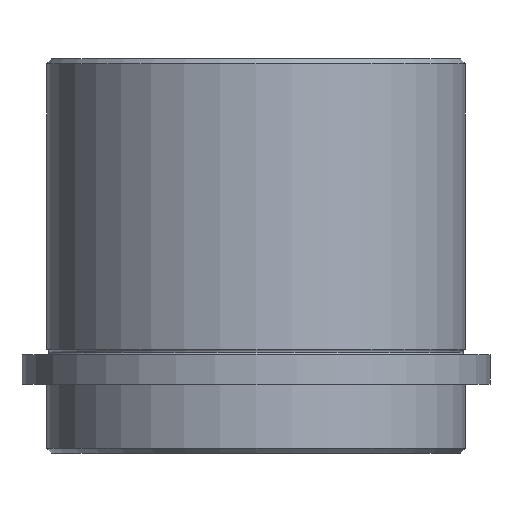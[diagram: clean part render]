
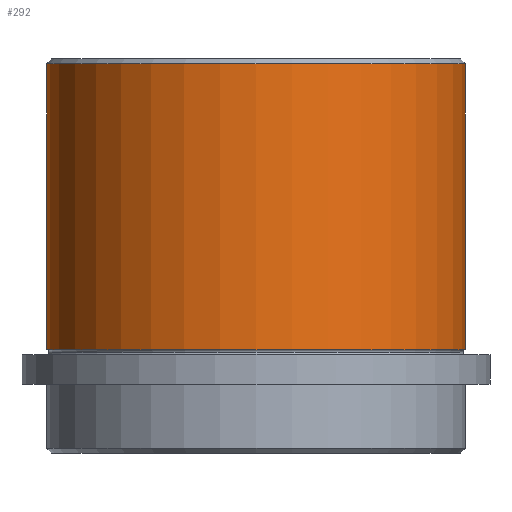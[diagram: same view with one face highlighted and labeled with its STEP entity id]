
A CAD part, front view. The second image highlights one B-rep face of the part: STEP entity #292.
In plain terms, the highlighted cylindrical face has radius 42.5 mm (diameter 85 mm), a partial arc.
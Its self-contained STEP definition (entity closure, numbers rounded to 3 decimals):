
#21 = ORIENTED_EDGE ( 'NONE', *, *, #234, .T. ) ;
#47 = CARTESIAN_POINT ( 'NONE',  ( 0., 0., -1. ) ) ;
#50 = CARTESIAN_POINT ( 'NONE',  ( -42.5, 0., -1. ) ) ;
#56 = AXIS2_PLACEMENT_3D ( 'NONE', #344, #817, #409 ) ;
#58 = EDGE_CURVE ( 'NONE', #604, #122, #735, .T. ) ;
#65 = DIRECTION ( 'NONE',  ( 0., 0., 1. ) ) ;
#87 = CARTESIAN_POINT ( 'NONE',  ( 0., 0., 0. ) ) ;
#101 = LINE ( 'NONE', #492, #801 ) ;
#118 = DIRECTION ( 'NONE',  ( -1., 0., 0. ) ) ;
#122 = VERTEX_POINT ( 'NONE', #50 ) ;
#214 = ORIENTED_EDGE ( 'NONE', *, *, #676, .T. ) ;
#234 = EDGE_CURVE ( 'NONE', #748, #334, #684, .T. ) ;
#292 = ADVANCED_FACE ( 'NONE', ( #643 ), #796, .T. ) ;
#334 = VERTEX_POINT ( 'NONE', #427 ) ;
#344 = CARTESIAN_POINT ( 'NONE',  ( 0., 0., -59. ) ) ;
#357 = VECTOR ( 'NONE', #65, 1000. ) ;
#409 = DIRECTION ( 'NONE',  ( 1., 0., 0. ) ) ;
#415 = EDGE_LOOP ( 'NONE', ( #668, #21, #214, #800 ) ) ;
#427 = CARTESIAN_POINT ( 'NONE',  ( 42.5, 0., -59. ) ) ;
#492 = CARTESIAN_POINT ( 'NONE',  ( 42.5, 0., 0. ) ) ;
#507 = DIRECTION ( 'NONE',  ( 0., 0., 1. ) ) ;
#518 = AXIS2_PLACEMENT_3D ( 'NONE', #87, #507, #839 ) ;
#525 = DIRECTION ( 'NONE',  ( 0., 0., -1. ) ) ;
#532 = LINE ( 'NONE', #742, #357 ) ;
#604 = VERTEX_POINT ( 'NONE', #640 ) ;
#640 = CARTESIAN_POINT ( 'NONE',  ( 42.5, 0., -1. ) ) ;
#643 = FACE_OUTER_BOUND ( 'NONE', #415, .T. ) ;
#668 = ORIENTED_EDGE ( 'NONE', *, *, #826, .F. ) ;
#676 = EDGE_CURVE ( 'NONE', #334, #604, #101, .T. ) ;
#684 = CIRCLE ( 'NONE', #56, 42.5 ) ;
#693 = DIRECTION ( 'NONE',  ( 0., 0., 1. ) ) ;
#735 = CIRCLE ( 'NONE', #790, 42.5 ) ;
#742 = CARTESIAN_POINT ( 'NONE',  ( -42.5, 0., 0. ) ) ;
#748 = VERTEX_POINT ( 'NONE', #884 ) ;
#790 = AXIS2_PLACEMENT_3D ( 'NONE', #47, #525, #118 ) ;
#796 = CYLINDRICAL_SURFACE ( 'NONE', #518, 42.5 ) ;
#800 = ORIENTED_EDGE ( 'NONE', *, *, #58, .T. ) ;
#801 = VECTOR ( 'NONE', #693, 1000. ) ;
#817 = DIRECTION ( 'NONE',  ( 0., 0., 1. ) ) ;
#826 = EDGE_CURVE ( 'NONE', #748, #122, #532, .T. ) ;
#839 = DIRECTION ( 'NONE',  ( 1., 0., 0. ) ) ;
#884 = CARTESIAN_POINT ( 'NONE',  ( -42.5, 0., -59. ) ) ;
